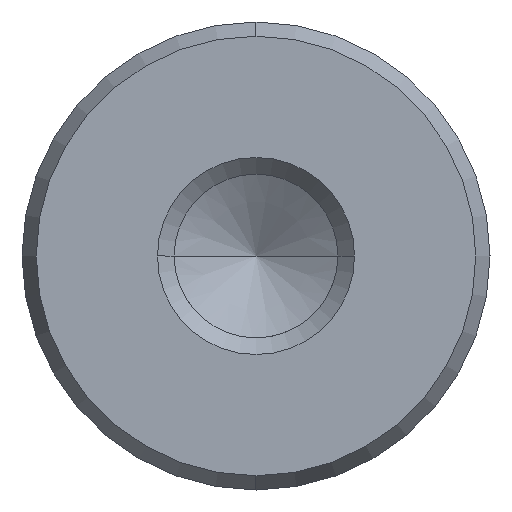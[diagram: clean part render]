
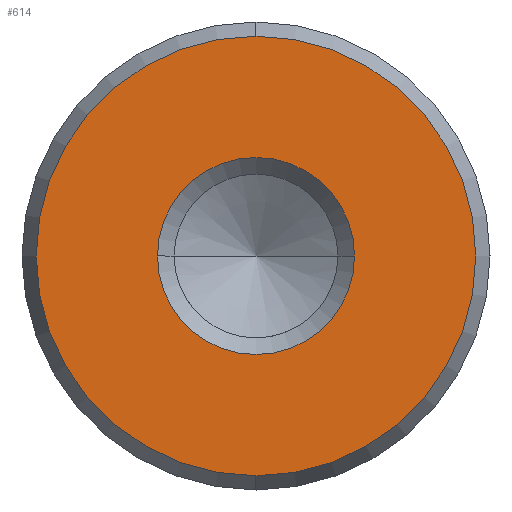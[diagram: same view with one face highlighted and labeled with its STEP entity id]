
A CAD part, left-side view. The second image highlights one B-rep face of the part: STEP entity #614.
In plain terms, the highlighted planar face has unit normal (-1, 0, 0).
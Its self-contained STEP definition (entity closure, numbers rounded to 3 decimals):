
#528=CARTESIAN_POINT('Vertex',(0.,0.,-8.923)) ;
#531=CARTESIAN_POINT('Axis2P3D Location',(0.,0.,0.)) ;
#535=CARTESIAN_POINT('Vertex',(0.,8.923,0.)) ;
#538=CARTESIAN_POINT('Axis2P3D Location',(0.,0.,0.)) ;
#542=CARTESIAN_POINT('Vertex',(0.,0.,8.923)) ;
#564=CARTESIAN_POINT('Axis2P3D Location',(0.,0.,0.)) ;
#568=CARTESIAN_POINT('Vertex',(0.,-8.923,0.)) ;
#571=CARTESIAN_POINT('Axis2P3D Location',(0.,0.,0.)) ;
#585=CARTESIAN_POINT('Axis2P3D Location',(0.,0.,0.)) ;
#596=CARTESIAN_POINT('Axis2P3D Location',(0.,0.,0.)) ;
#600=CARTESIAN_POINT('Vertex',(0.,4.,0.)) ;
#602=CARTESIAN_POINT('Vertex',(0.,-4.,0.)) ;
#605=CARTESIAN_POINT('Axis2P3D Location',(0.,0.,0.)) ;
#532=DIRECTION('Axis2P3D Direction',(1.,0.,-0.)) ;
#539=DIRECTION('Axis2P3D Direction',(1.,0.,-0.)) ;
#565=DIRECTION('Axis2P3D Direction',(1.,0.,-0.)) ;
#572=DIRECTION('Axis2P3D Direction',(1.,0.,-0.)) ;
#586=DIRECTION('Axis2P3D Direction',(1.,0.,-0.)) ;
#587=DIRECTION('Axis2P3D XDirection',(-0.,0.,-1.)) ;
#597=DIRECTION('Axis2P3D Direction',(1.,0.,-0.)) ;
#606=DIRECTION('Axis2P3D Direction',(1.,0.,-0.)) ;
#533=AXIS2_PLACEMENT_3D('Circle Axis2P3D',#531,#532,$) ;
#540=AXIS2_PLACEMENT_3D('Circle Axis2P3D',#538,#539,$) ;
#566=AXIS2_PLACEMENT_3D('Circle Axis2P3D',#564,#565,$) ;
#573=AXIS2_PLACEMENT_3D('Circle Axis2P3D',#571,#572,$) ;
#588=AXIS2_PLACEMENT_3D('Plane Axis2P3D',#585,#586,#587) ;
#598=AXIS2_PLACEMENT_3D('Circle Axis2P3D',#596,#597,$) ;
#607=AXIS2_PLACEMENT_3D('Circle Axis2P3D',#605,#606,$) ;
#591=ORIENTED_EDGE('',*,*,#537,.F.) ;
#592=ORIENTED_EDGE('',*,*,#575,.F.) ;
#593=ORIENTED_EDGE('',*,*,#570,.F.) ;
#594=ORIENTED_EDGE('',*,*,#544,.F.) ;
#611=ORIENTED_EDGE('',*,*,#604,.T.) ;
#612=ORIENTED_EDGE('',*,*,#609,.T.) ;
#613=FACE_BOUND('',#610,.T.) ;
#614=ADVANCED_FACE('720-19x160',(#595,#613),#589,.F.) ;
#534=CIRCLE('generated circle',#533,8.923) ;
#541=CIRCLE('generated circle',#540,8.923) ;
#567=CIRCLE('generated circle',#566,8.923) ;
#574=CIRCLE('generated circle',#573,8.923) ;
#599=CIRCLE('generated circle',#598,4.) ;
#608=CIRCLE('generated circle',#607,4.) ;
#537=EDGE_CURVE('',#529,#536,#534,.T.) ;
#544=EDGE_CURVE('',#536,#543,#541,.T.) ;
#570=EDGE_CURVE('',#543,#569,#567,.T.) ;
#575=EDGE_CURVE('',#569,#529,#574,.T.) ;
#604=EDGE_CURVE('',#601,#603,#599,.T.) ;
#609=EDGE_CURVE('',#603,#601,#608,.T.) ;
#590=EDGE_LOOP('',(#591,#592,#593,#594)) ;
#610=EDGE_LOOP('',(#611,#612)) ;
#595=FACE_OUTER_BOUND('',#590,.T.) ;
#589=PLANE('Plane',#588) ;
#529=VERTEX_POINT('',#528) ;
#536=VERTEX_POINT('',#535) ;
#543=VERTEX_POINT('',#542) ;
#569=VERTEX_POINT('',#568) ;
#601=VERTEX_POINT('',#600) ;
#603=VERTEX_POINT('',#602) ;
